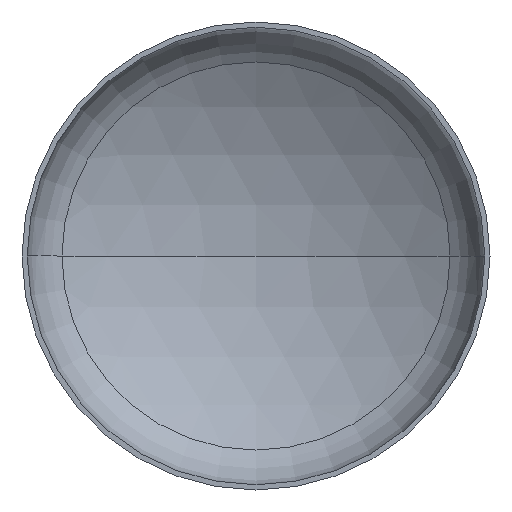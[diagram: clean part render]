
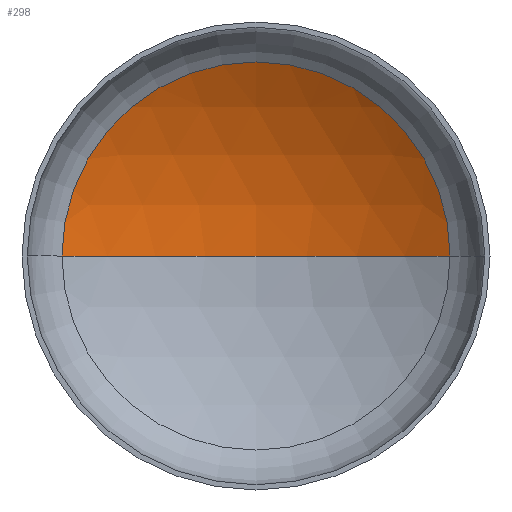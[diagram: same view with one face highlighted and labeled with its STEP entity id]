
A CAD part, front view. The second image highlights one B-rep face of the part: STEP entity #298.
In plain terms, the highlighted spherical face has radius 3200 mm.
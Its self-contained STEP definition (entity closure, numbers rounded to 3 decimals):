
#15 = DIRECTION ( 'NONE',  ( 1., 0., 0. ) ) ;
#17 = AXIS2_PLACEMENT_3D ( 'NONE', #127, #394, #389 ) ;
#30 = AXIS2_PLACEMENT_3D ( 'NONE', #275, #225, #15 ) ;
#31 = VERTEX_POINT ( 'NONE', #291 ) ;
#33 = AXIS2_PLACEMENT_3D ( 'NONE', #165, #401, #129 ) ;
#34 = AXIS2_PLACEMENT_3D ( 'NONE', #193, #188, #192 ) ;
#51 = CIRCLE ( 'NONE', #30, 3200. ) ;
#55 = VERTEX_POINT ( 'NONE', #292 ) ;
#70 = EDGE_CURVE ( 'NONE', #31, #149, #245, .T. ) ;
#73 = EDGE_CURVE ( 'NONE', #55, #31, #161, .T. ) ;
#77 = EDGE_CURVE ( 'NONE', #55, #149, #51, .T. ) ;
#123 = ORIENTED_EDGE ( 'NONE', *, *, #73, .T. ) ;
#127 = CARTESIAN_POINT ( 'NONE',  ( 0., -2070.571, 0. ) ) ;
#129 = DIRECTION ( 'NONE',  ( -1., 0., 0. ) ) ;
#139 = ORIENTED_EDGE ( 'NONE', *, *, #77, .F. ) ;
#149 = VERTEX_POINT ( 'NONE', #196 ) ;
#161 = CIRCLE ( 'NONE', #33, 3200. ) ;
#165 = CARTESIAN_POINT ( 'NONE',  ( 0., -2070.571, 0. ) ) ;
#188 = DIRECTION ( 'NONE',  ( 0., -1., 0. ) ) ;
#192 = DIRECTION ( 'NONE',  ( 1., 0., 0. ) ) ;
#193 = CARTESIAN_POINT ( 'NONE',  ( 0., 665.919, 0. ) ) ;
#196 = CARTESIAN_POINT ( 'NONE',  ( -1658.801, 665.919, 0. ) ) ;
#225 = DIRECTION ( 'NONE',  ( 0., 0., 1. ) ) ;
#245 = CIRCLE ( 'NONE', #34, 1658.801 ) ;
#275 = CARTESIAN_POINT ( 'NONE',  ( 0., -2070.571, 0. ) ) ;
#291 = CARTESIAN_POINT ( 'NONE',  ( 1658.801, 665.919, 0. ) ) ;
#292 = CARTESIAN_POINT ( 'NONE',  ( 0., 1129.429, 0. ) ) ;
#298 = ADVANCED_FACE ( 'NONE', ( #347 ), #409, .F. ) ;
#342 = EDGE_LOOP ( 'NONE', ( #139, #123, #364 ) ) ;
#347 = FACE_OUTER_BOUND ( 'NONE', #342, .T. ) ;
#364 = ORIENTED_EDGE ( 'NONE', *, *, #70, .T. ) ;
#389 = DIRECTION ( 'NONE',  ( -1., 0., 0. ) ) ;
#394 = DIRECTION ( 'NONE',  ( 0., 0., -1. ) ) ;
#401 = DIRECTION ( 'NONE',  ( 0., 0., -1. ) ) ;
#409 = SPHERICAL_SURFACE ( 'NONE', #17, 3200. ) ;
